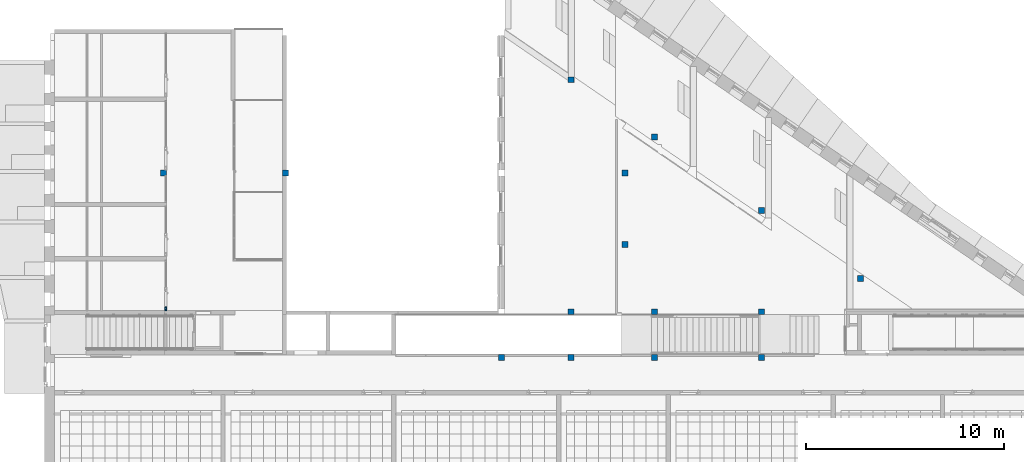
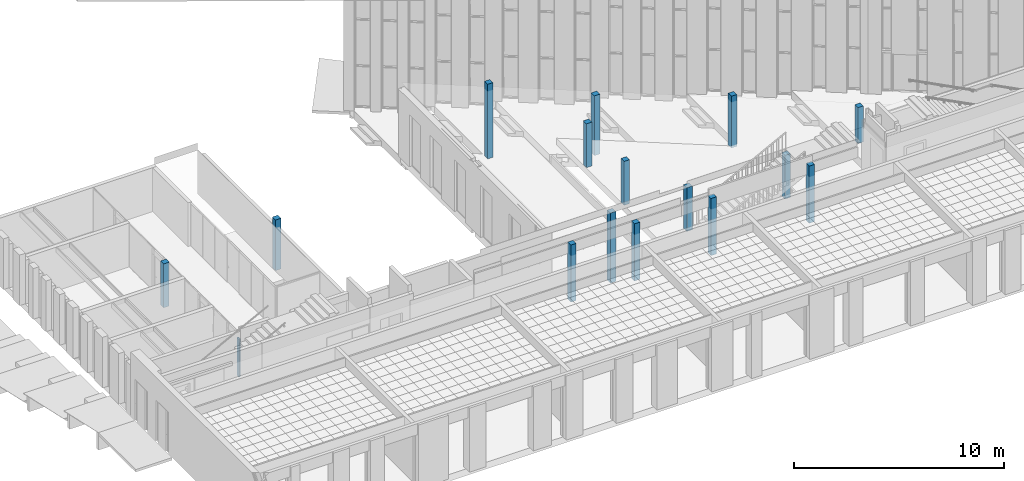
# One storey, part 1 of 79: 15 columns, 1 member, 1 element without a shape of its own.
"""IFC2X3 building model written with IfcOpenShell, lengths in millimetres."""

from ifc_helpers import new_model, entity, si_unit, converted_unit, derived_unit, money_unit, direction, frame, origin_with_axes, place, context, subcontext, project, spatial, faceted_brep, source, transform, mapped, material, material_list, type_object, element, aggregate, save


model = new_model("IFC2X3")

# Units and contexts
model_context = context("Model", 3, precision=0.01, world=origin_with_axes(), true_north=direction((0.0, 1.0)))
body_context = subcontext(model_context, "Body", "Model", "MODEL_VIEW")
ifc_project = project(units=[si_unit("LENGTHUNIT", "METRE", prefix="MILLI"), si_unit("AREAUNIT", "SQUARE_METRE"), si_unit("VOLUMEUNIT", "CUBIC_METRE"), converted_unit("PLANEANGLEUNIT", "DEGREE", entity("IfcPlaneAngleMeasure", 0.0174532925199), si_unit("PLANEANGLEUNIT", "RADIAN"), dimensions=[0, 0, 0, 0, 0, 0, 0]), si_unit("SOLIDANGLEUNIT", "STERADIAN"), money_unit("EUR"), converted_unit("TIMEUNIT", "Year", entity("IfcTimeMeasure", 31556926.0), si_unit("TIMEUNIT", "SECOND"), dimensions=[0, 0, 1, 0, 0, 0, 0]), si_unit("MASSUNIT", "GRAM", prefix="KILO"), si_unit("THERMODYNAMICTEMPERATUREUNIT", "DEGREE_CELSIUS"), si_unit("LUMINOUSINTENSITYUNIT", "LUMEN"), si_unit("ENERGYUNIT", "JOULE", prefix="MEGA"), derived_unit("THERMALCONDUCTANCEUNIT", [(si_unit("POWERUNIT", "WATT"), 1), (si_unit("LENGTHUNIT", "METRE"), -1), (si_unit("THERMODYNAMICTEMPERATUREUNIT", "KELVIN"), -1)]), derived_unit("SPECIFICHEATCAPACITYUNIT", [(si_unit("ENERGYUNIT", "JOULE"), 1), (si_unit("MASSUNIT", "GRAM", prefix="KILO"), -1), (si_unit("THERMODYNAMICTEMPERATUREUNIT", "KELVIN"), -1)]), derived_unit("MASSDENSITYUNIT", [(si_unit("MASSUNIT", "GRAM", prefix="KILO"), 1), (si_unit("VOLUMEUNIT", "CUBIC_METRE"), -1)])], contexts=[model_context])

# Site, building, storey
site_placement = place(None, origin_with_axes())
site = spatial("IfcSite", under=ifc_project, at=site_placement, Name="L.Koidula tn 11b", CompositionType="ELEMENT")
building_placement = place(site_placement, origin_with_axes())
building = spatial("IfcBuilding", under=site, at=building_placement, Name="Rakvere Riigigümnaasium", CompositionType="ELEMENT")
storey_placement = place(building_placement, frame((0.0, 0.0, 3720.0), z_axis=(0.0, 0.0, 1.0), x_axis=(1.0, 0.0, 0.0)))
storey = spatial("IfcBuildingStorey", under=building, at=storey_placement, Name="2.korrus +3,72", CompositionType="ELEMENT", Elevation=3720.0)

# Columns
ifc_material_1 = material(Name="Betoon post")
column_type = type_object("IfcColumnType", Name="Betoon post 300 x 300", PredefinedType="COLUMN")
for number, where, z_axis, x_axis, name in (
    (1, (71149.9980729, 14950.4785302, 0.0), (0.0, 0.0, 1.0), (1.0, 0.0, 0.0), "Post"),
    (2, (61540.0000003, 14950.4555218, 0.0), (0.0, 0.0, 1.0), (1.0, 0.0, 0.0), "Post"),
    (3, (65749.9980729, 14950.4785302, 0.0), (0.0, 0.0, 1.0), (1.0, 0.0, 0.0), "Post"),
    (4, (58030.0348101, 14950.4785254, 0.0), (0.0, 0.0, 1.0), (1.0, 0.0, 0.0), "Post"),
):
    element("IfcColumn", number, at=place(storey_placement, frame(where, z_axis=z_axis, x_axis=x_axis)), inside=storey, type_object=column_type, material=ifc_material_1, Name=name, ObjectType="COLUMN", context=body_context, shape_type="Brep", body=[
        faceted_brep([(-150.0, -150.0, 3325.0), (-150.0, -150.0, 0.0), (150.0, -150.0, 0.0), (150.0, -150.0, 3325.0), (-150.0, 150.0, 3325.0), (-150.0, 150.0, 0.0), (150.0, 150.0, 0.0), (150.0, 150.0, 3325.0)], [[[0, 1, 2, 3]], [[4, 5, 1, 0]], [[2, 1, 5, 6]], [[3, 2, 6, 7]], [[4, 0, 3, 7]], [[7, 6, 5, 4]]]),
    ])
column_1_placement = place(storey_placement, frame((71149.9980729, 17260.4555225, 0.0), z_axis=(0.0, 0.0, 1.0), x_axis=(1.0, 0.0, 0.0)))
element("IfcColumn", 5, at=column_1_placement, inside=storey, type_object=column_type, material=ifc_material_1, Name="Post", ObjectType="COLUMN", context=body_context, shape_type="Brep", body=[
    faceted_brep([(-150.0, -150.0, 2550.0), (-150.0, -150.0, 0.0), (150.0, -150.0, 0.0), (150.0, -150.0, 2550.0), (-150.0, 150.0, 2550.0), (-150.0, 150.0, 0.0), (150.0, 150.0, 0.0), (150.0, 150.0, 2550.0)], [[[0, 1, 2, 3]], [[4, 5, 1, 0]], [[2, 1, 5, 6]], [[3, 2, 6, 7]], [[4, 0, 3, 7]], [[7, 6, 5, 4]]]),
])
column_2_placement = place(storey_placement, frame((61540.020931, 17260.4325141, -1525.0), z_axis=(0.0, 0.0, 1.0), x_axis=(1.0, 0.0, 0.0)))
element("IfcColumn", 6, at=column_2_placement, inside=storey, type_object=column_type, material=ifc_material_1, Name="Post", ObjectType="COLUMN", context=body_context, shape_type="Brep", body=[
    faceted_brep([(-150.0, -150.0, 4075.0), (-150.0, -150.0, 0.0), (150.0, -150.0, 0.0), (150.0, -150.0, 4075.0), (-150.0, 150.0, 4075.0), (-150.0, 150.0, 0.0), (150.0, 150.0, 0.0), (150.0, 150.0, 4075.0)], [[[0, 1, 2, 3]], [[4, 5, 1, 0]], [[2, 1, 5, 6]], [[3, 2, 6, 7]], [[4, 0, 3, 7]], [[7, 6, 5, 4]]]),
])
column_3_placement = place(storey_placement, frame((65749.9980025, 17260.4555225, 0.0), z_axis=(0.0, 0.0, 1.0), x_axis=(1.0, 0.0, 0.0)))
element("IfcColumn", 7, at=column_3_placement, inside=storey, type_object=column_type, material=ifc_material_1, Name="Post", ObjectType="COLUMN", context=body_context, shape_type="Brep", body=[
    faceted_brep([(-150.0, -150.0, 2550.0), (-150.0, -150.0, 0.0), (150.0, -150.0, 0.0), (150.0, -150.0, 2550.0), (-150.0, 150.0, 2550.0), (-150.0, 150.0, 0.0), (150.0, 150.0, 0.0), (150.0, 150.0, 2550.0)], [[[0, 1, 2, 3]], [[4, 5, 1, 0]], [[2, 1, 5, 6]], [[3, 2, 6, 7]], [[4, 0, 3, 7]], [[7, 6, 5, 4]]]),
])
column_4_placement = place(storey_placement, frame((76139.9798877, 18946.2350956, 465.0), z_axis=(0.0, 0.0, 1.0), x_axis=(1.0, 0.0, 0.0)))
element("IfcColumn", 8, at=column_4_placement, inside=storey, type_object=column_type, material=ifc_material_1, Name="Post", ObjectType="COLUMN", context=body_context, shape_type="Brep", body=[
    faceted_brep([(-150.0, -150.0, 2085.0), (-150.0, -150.0, 0.0), (150.0, -150.0, 0.0), (150.0, -150.0, 2085.0), (-150.0, 150.0, 2085.0), (-150.0, 150.0, 0.0), (150.0, 150.0, 0.0), (150.0, 150.0, 2085.0)], [[[0, 1, 2, 3]], [[4, 5, 1, 0]], [[2, 1, 5, 6]], [[3, 2, 6, 7]], [[4, 0, 3, 7]], [[7, 6, 5, 4]]]),
])
column_5_placement = place(storey_placement, frame((71149.9980729, 22368.7533367, -130.0), z_axis=(0.0, 0.0, 1.0), x_axis=(1.0, 0.0, 0.0)))
element("IfcColumn", 9, at=column_5_placement, inside=storey, type_object=column_type, material=ifc_material_1, Name="Post", ObjectType="COLUMN", context=body_context, shape_type="Brep", body=[
    faceted_brep([(-150.0, -150.0, 3015.0), (-150.0, -150.0, 0.0), (150.0, -150.0, 0.0), (150.0, -150.0, 3015.0), (-150.0, 150.0, 3015.0), (-150.0, 150.0, 0.0), (150.0, 150.0, 0.0), (150.0, 150.0, 3015.0)], [[[0, 1, 2, 3]], [[4, 5, 1, 0]], [[2, 1, 5, 6]], [[3, 2, 6, 7]], [[4, 0, 3, 7]], [[7, 6, 5, 4]]]),
])
for number, where, z_axis, x_axis, name in (
    (10, (64260.020931, 20650.4631607, 0.0), (0.0, 0.0, 1.0), (1.0, 0.0, 0.0), "Post"),
    (11, (64260.020931, 24250.4555472, 0.0), (0.0, 0.0, 1.0), (1.0, 0.0, 0.0), "Post"),
):
    element("IfcColumn", number, at=place(storey_placement, frame(where, z_axis=z_axis, x_axis=x_axis)), inside=storey, type_object=column_type, material=ifc_material_1, Name=name, ObjectType="COLUMN", context=body_context, shape_type="Brep", body=[
        faceted_brep([(-150.0, -150.0, 2550.0), (-150.0, -150.0, 0.0), (150.0, -150.0, 0.0), (150.0, -150.0, 2550.0), (-150.0, 150.0, 2550.0), (-150.0, 150.0, 0.0), (150.0, 150.0, 0.0), (150.0, 150.0, 2550.0)], [[[0, 1, 2, 3]], [[4, 5, 1, 0]], [[2, 1, 5, 6]], [[3, 2, 6, 7]], [[4, 0, 3, 7]], [[7, 6, 5, 4]]]),
    ])
column_6_placement = place(storey_placement, frame((65749.9980729, 26072.2711802, -930.0), z_axis=(0.0, 0.0, 1.0), x_axis=(1.0, 0.0, 0.0)))
element("IfcColumn", 12, at=column_6_placement, inside=storey, type_object=column_type, material=ifc_material_1, Name="Post", ObjectType="COLUMN", context=body_context, shape_type="Brep", body=[
    faceted_brep([(-150.0, -150.0, 3480.0), (-150.0, -150.0, 0.0), (150.0, -150.0, 0.0), (150.0, -150.0, 3480.0), (-150.0, 150.0, 3480.0), (-150.0, 150.0, 0.0), (150.0, 150.0, 0.0), (150.0, 150.0, 3480.0)], [[[0, 1, 2, 3]], [[4, 5, 1, 0]], [[2, 1, 5, 6]], [[3, 2, 6, 7]], [[4, 0, 3, 7]], [[7, 6, 5, 4]]]),
])
column_7_placement = place(storey_placement, frame((61540.020931, 28960.0508919, -1394.9999959), z_axis=(0.0, 0.0, 1.0), x_axis=(1.0, 0.0, 0.0)))
element("IfcColumn", 13, at=column_7_placement, inside=storey, type_object=column_type, material=ifc_material_1, Name="Post", ObjectType="COLUMN", context=body_context, shape_type="Brep", body=[
    faceted_brep([(-150.0, -150.0, 4339.9999959), (-150.0, -150.0, 0.0), (150.0, -150.0, 0.0), (150.0, -150.0, 4339.9999959), (-150.0, 150.0, 4339.9999959), (-150.0, 150.0, 0.0), (150.0, 150.0, 0.0), (150.0, 150.0, 4339.9999959)], [[[0, 1, 2, 3]], [[4, 5, 1, 0]], [[2, 1, 5, 6]], [[3, 2, 6, 7]], [[4, 0, 3, 7]], [[7, 6, 5, 4]]]),
])
column_8_placement = place(storey_placement, frame((47150.0013931, 24250.4555472, 0.0), z_axis=(0.0, 0.0, 1.0), x_axis=(1.0, 0.0, 0.0)))
element("IfcColumn", 14, at=column_8_placement, inside=storey, type_object=column_type, material=ifc_material_1, Name="Post", ObjectType="COLUMN", context=body_context, shape_type="Brep", body=[
    faceted_brep([(-150.0, -150.0, 2945.0), (-150.0, -150.0, 0.0), (150.0, -150.0, 0.0), (150.0, -150.0, 2945.0), (-150.0, 150.0, 2945.0), (-150.0, 150.0, 0.0), (150.0, 150.0, 0.0), (150.0, 150.0, 2945.0)], [[[0, 1, 2, 3]], [[4, 5, 1, 0]], [[2, 1, 5, 6]], [[3, 2, 6, 7]], [[4, 0, 3, 7]], [[7, 6, 5, 4]]]),
])
column_9_placement = place(storey_placement, frame((41000.0009821, 24250.4555472, 0.0), z_axis=(0.0, 0.0, 1.0), x_axis=(1.0, 0.0, 0.0)))
element("IfcColumn", 15, at=column_9_placement, inside=storey, type_object=column_type, material=ifc_material_1, Name="Post", ObjectType="COLUMN", context=body_context, shape_type="Brep", body=[
    faceted_brep([(-150.0, -150.0, 2550.0), (-150.0, -150.0, 0.0), (150.0, -150.0, 0.0), (150.0, -150.0, 2550.0), (-150.0, 150.0, 2550.0), (-150.0, 150.0, 0.0), (150.0, 150.0, 0.0), (150.0, 150.0, 2550.0)], [[[0, 1, 2, 3]], [[4, 5, 1, 0]], [[2, 1, 5, 6]], [[3, 2, 6, 7]], [[4, 0, 3, 7]], [[7, 6, 5, 4]]]),
])

# Curtain wall, member
curtain_wall_type = type_object("IfcCurtainWallType", Name="Curtain Wall Type", PredefinedType="NOTDEFINED")
curtain_wall_placement = place(storey_placement, frame((41130.915445, 17840.4555248, 2.4134225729e-05), z_axis=(0.0, 0.0, 1.0), x_axis=(1.0, 0.0, 0.0)))
curtain_wall = element("IfcCurtainWall", 16, at=curtain_wall_placement, inside=storey, type_object=curtain_wall_type, Name="SKLF-12")
ifc_material_2 = material(Name="Puit")
ifc_material_3 = material(Name="Klaasvill")
ifc_material_4 = material(Name="MDF")
ifc_material_5 = material(Name="Alumiiniumprofiil")
ifc_material_6 = material(Name="Teras")
ifc_material_list = material_list([ifc_material_2, ifc_material_3, ifc_material_4, ifc_material_5, ifc_material_6])
member_type = type_object("IfcMemberType", Name="Siseklaasfassaad - Ukseraam hing- klaasita-2 195 x 29", PredefinedType="MULLION")
shared_shape = source(origin_with_axes(), body_context, "Body", "Brep", [
    faceted_brep([(139.859682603, -15.116905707, 0.0), (181.717061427, -15.116905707, 0.0), (181.717061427, -15.116905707, 2200.0), (139.859682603, -15.116905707, 2200.0), (139.859682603, 50.9999990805, 0.0), (169.859682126, 50.9999990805, 0.0), (169.859683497, 23.9999989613, 0.0), (178.395629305, 23.9999989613, 0.0), (178.395629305, -8.00000062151, 0.0), (181.855103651, -8.00000062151, 0.0), (181.855103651, -15.116905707, 0.0), (181.855103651, -15.116905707, 2200.0), (181.855103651, -8.00000062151, 2200.0), (178.395629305, -8.00000062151, 2200.0), (178.395629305, 23.9999989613, 2200.0), (169.859683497, 23.9999989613, 2200.0), (169.859682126, 50.9999990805, 2200.0), (139.859682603, 50.9999990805, 2200.0)], [[[0, 1, 2, 3]], [[0, 4, 5, 6, 7, 8, 9, 10, 1]], [[1, 10, 11, 2]], [[3, 2, 11, 12, 13, 14, 15, 16, 17]], [[4, 0, 3, 17]], [[5, 4, 17, 16]], [[6, 5, 16, 15]], [[7, 6, 15, 14]], [[8, 7, 14, 13]], [[9, 8, 13, 12]], [[10, 9, 12, 11]]]),
    faceted_brep([(31.9999999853, 20.4981590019, 0.0), (31.9999999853, 17.3999984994, 0.0), (31.9999999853, 17.3999984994, 2200.0), (31.9999999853, 20.4981590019, 2200.0), (109.856776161, 20.498157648, 0.0), (109.856777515, 5.39999855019, 0.0), (109.856777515, -15.0000008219, 0.0), (109.856777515, -16.9999999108, 0.0), (50.0000012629, -17.0000026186, 0.0), (31.9999999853, -16.9999999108, 0.0), (31.9999999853, -10.9998686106, 0.0), (31.9999999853, -4.99999996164, 0.0), (31.9999999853, -4.99999996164, 2200.0), (31.9999999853, -10.9998686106, 2200.0), (31.9999999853, -16.9999999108, 2200.0), (50.0000012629, -17.0000026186, 2200.0), (109.856777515, -16.9999999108, 2200.0), (109.856777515, -15.0000008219, 2200.0), (109.856777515, 5.39999855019, 2200.0), (109.856776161, 20.498157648, 2200.0)], [[[0, 1, 2, 3]], [[0, 4, 5, 6, 7, 8, 9, 10, 11, 1]], [[1, 11, 12, 2]], [[3, 2, 12, 13, 14, 15, 16, 17, 18, 19]], [[4, 0, 3, 19]], [[5, 4, 19, 18]], [[6, 5, 18, 17]], [[7, 6, 17, 16]], [[8, 7, 16, 15]], [[9, 8, 15, 14]], [[10, 9, 14, 13]], [[11, 10, 13, 12]]]),
    faceted_brep([(2.00000016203, -18.9999768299, 0.0), (2.00000016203, -28.9999775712, 0.0), (2.00000016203, -28.9999775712, 2200.0), (2.00000016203, -18.9999768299, 2200.0), (29.9999993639, -18.9999998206, 0.0), (31.9999995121, -18.9999998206, 0.0), (50.0000008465, -18.9999998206, 0.0), (109.856776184, -18.9999797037, 0.0), (192.859682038, -18.9999768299, 0.0), (192.859682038, -28.9999775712, 0.0), (192.859682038, -28.9999775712, 2200.0), (192.859682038, -18.9999768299, 2200.0), (109.856776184, -18.9999797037, 2200.0), (50.0000008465, -18.9999998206, 2200.0), (31.9999995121, -18.9999998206, 2200.0), (29.9999993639, -18.9999998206, 2200.0)], [[[0, 1, 2, 3]], [[0, 4, 5, 6, 7, 8, 9, 1]], [[1, 9, 10, 2]], [[3, 2, 10, 11, 12, 13, 14, 15]], [[4, 0, 3, 15]], [[5, 4, 15, 14]], [[6, 5, 14, 13]], [[7, 6, 13, 12]], [[8, 7, 12, 11]], [[9, 8, 11, 10]]]),
    faceted_brep([(167.859682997, 63.0000007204, 0.0), (1.99999972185, 62.9999978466, 0.0), (1.99999972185, 62.9999978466, 2200.0), (167.859682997, 63.0000007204, 2200.0), (167.859682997, 52.9999999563, 0.0), (139.859683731, 52.9999999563, 0.0), (109.85677599, 52.9999999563, 0.0), (29.9999989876, 52.9999970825, 0.0), (18.6712801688, 52.9999970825, 0.0), (1.99999972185, 52.9999999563, 0.0), (1.99999972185, 52.9999999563, 2200.0), (18.6712801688, 52.9999970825, 2200.0), (29.9999989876, 52.9999970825, 2200.0), (109.85677599, 52.9999999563, 2200.0), (139.859683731, 52.9999999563, 2200.0), (167.859682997, 52.9999999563, 2200.0)], [[[0, 1, 2, 3]], [[0, 4, 5, 6, 7, 8, 9, 1]], [[1, 9, 10, 2]], [[3, 2, 10, 11, 12, 13, 14, 15]], [[4, 0, 3, 15]], [[5, 4, 15, 14]], [[6, 5, 14, 13]], [[7, 6, 13, 12]], [[8, 7, 12, 11]], [[9, 8, 11, 10]]]),
    faceted_brep([(18.9999998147, 33.492630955, 0.0), (18.9999998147, 20.5001075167, 0.0), (18.9999998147, 20.5001075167, 2200.0), (18.9999998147, 33.492630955, 2200.0), (109.856776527, 33.4906812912, 0.0), (109.856776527, 20.4981578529, 0.0), (31.9999999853, 20.4981590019, 0.0), (31.9999999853, 20.4981590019, 2200.0), (109.856776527, 20.4981578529, 2200.0), (109.856776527, 33.4906812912, 2200.0)], [[[0, 1, 2, 3]], [[0, 4, 5, 6, 1]], [[1, 6, 7, 2]], [[3, 2, 7, 8, 9]], [[4, 0, 3, 9]], [[5, 4, 9, 8]], [[6, 5, 8, 7]]]),
    faceted_brep([(109.854989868, 49.9999988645, 0.0), (19.0000000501, 50.0001085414, 0.0), (19.0000000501, 50.0001085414, 2200.0), (109.854989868, 49.9999988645, 2200.0), (109.854989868, 36.9999990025, 0.0), (19.0000000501, 37.0001070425, 0.0), (19.0000000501, 37.0001070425, 2200.0), (109.854989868, 36.9999990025, 2200.0)], [[[0, 1, 2, 3]], [[0, 4, 5, 1]], [[1, 5, 6, 2]], [[3, 2, 6, 7]], [[4, 0, 3, 7]], [[5, 4, 7, 6]]]),
    faceted_brep([(109.856776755, 52.9999991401, 0.0), (109.854989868, 49.9999988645, 0.0), (109.854989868, 49.9999988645, 2200.0), (109.856776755, 52.9999991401, 2200.0), (139.859682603, 52.9999991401, 0.0), (167.859682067, 52.9999991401, 0.0), (167.859682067, 62.9999994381, 0.0), (169.859682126, 62.9999994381, 0.0), (169.859682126, 54.9999991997, 0.0), (169.859682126, 50.9999990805, 0.0), (139.859682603, 50.9999990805, 0.0), (139.859682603, -15.116905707, 0.0), (181.717061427, -15.116905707, 0.0), (181.717061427, -17.0000002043, 0.0), (194.859682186, -17.0000002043, 0.0), (194.859682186, -20.0740464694, 0.0), (194.859682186, -29.0000005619, 0.0), (192.859683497, -29.0000005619, 0.0), (192.859683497, -18.9999783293, 0.0), (109.856776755, -18.9999783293, 0.0), (109.856777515, -16.9999999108, 0.0), (109.856776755, -15.0000001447, 0.0), (126.859682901, -15.0000001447, 0.0), (126.859682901, 5.39999991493, 0.0), (109.856776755, 5.39999991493, 0.0), (109.856776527, 20.4981578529, 0.0), (109.856776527, 33.4906812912, 0.0), (109.854989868, 36.9999990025, 0.0), (109.854989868, 36.9999990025, 2200.0), (109.856776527, 33.4906812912, 2200.0), (109.856776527, 20.4981578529, 2200.0), (109.856776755, 5.39999991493, 2200.0), (126.859682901, 5.39999991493, 2200.0), (126.859682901, -15.0000001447, 2200.0), (109.856776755, -15.0000001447, 2200.0), (109.856777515, -16.9999999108, 2200.0), (109.856776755, -18.9999783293, 2200.0), (192.859683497, -18.9999783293, 2200.0), (192.859683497, -29.0000005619, 2200.0), (194.859682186, -29.0000005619, 2200.0), (194.859682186, -20.0740464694, 2200.0), (194.859682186, -17.0000002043, 2200.0), (181.717061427, -17.0000002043, 2200.0), (181.717061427, -15.116905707, 2200.0), (139.859682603, -15.116905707, 2200.0), (139.859682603, 50.9999990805, 2200.0), (169.859682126, 50.9999990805, 2200.0), (169.859682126, 54.9999991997, 2200.0), (169.859682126, 62.9999994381, 2200.0), (167.859682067, 62.9999994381, 2200.0), (167.859682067, 52.9999991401, 2200.0), (139.859682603, 52.9999991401, 2200.0)], [[[0, 1, 2, 3]], [[0, 4, 5, 6, 7, 8, 9, 10, 11, 12, 13, 14, 15, 16, 17, 18, 19, 20, 21, 22, 23, 24, 25, 26, 27, 1]], [[1, 27, 28, 2]], [[3, 2, 28, 29, 30, 31, 32, 33, 34, 35, 36, 37, 38, 39, 40, 41, 42, 43, 44, 45, 46, 47, 48, 49, 50, 51]], [[4, 0, 3, 51]], [[5, 4, 51, 50]], [[6, 5, 50, 49]], [[7, 6, 49, 48]], [[8, 7, 48, 47]], [[9, 8, 47, 46]], [[10, 9, 46, 45]], [[11, 10, 45, 44]], [[12, 11, 44, 43]], [[13, 12, 43, 42]], [[14, 13, 42, 41]], [[15, 14, 41, 40]], [[16, 15, 40, 39]], [[17, 16, 39, 38]], [[18, 17, 38, 37]], [[19, 18, 37, 36]], [[20, 19, 36, 35]], [[21, 20, 35, 34]], [[22, 21, 34, 33]], [[23, 22, 33, 32]], [[24, 23, 32, 31]], [[25, 24, 31, 30]], [[26, 25, 30, 29]], [[27, 26, 29, 28]]]),
    faceted_brep([(0.0, 62.9999994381, 0.0), (0.0, 15.3999992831, 0.0), (0.0, 15.3999992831, 2200.0), (0.0, 62.9999994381, 2200.0), (1.99999958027, 62.9999994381, 0.0), (2.00000095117, 52.999998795, 0.0), (18.6712817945, 52.999998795, 0.0), (29.9999991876, 52.999998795, 0.0), (29.9999991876, 50.0001084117, 0.0), (19.0000008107, 50.0001084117, 0.0), (19.0000000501, 37.0001070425, 0.0), (18.9999998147, 33.492630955, 0.0), (18.9999998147, 20.5001075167, 0.0), (19.0000008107, 17.3999988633, 0.0), (32.0000001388, 17.3999988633, 0.0), (32.0000001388, -5.0, 0.0), (32.0000001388, -10.9998685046, 0.0), (32.0000001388, -17.0000015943, 0.0), (50.0000004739, -17.0000015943, 0.0), (50.0000004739, -18.9999998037, 0.0), (32.0000001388, -18.9999998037, 0.0), (30.0000005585, -18.9999998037, 0.0), (30.0000005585, -17.0000015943, 0.0), (30.0000005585, -10.9998685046, 0.0), (2.00000095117, -10.9998685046, 0.0), (2.00000016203, -18.9999768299, 0.0), (2.00000095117, -28.9999785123, 0.0), (0.0, -28.9999785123, 0.0), (0.0, -5.0, 0.0), (2.00000095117, -5.0, 0.0), (16.9999998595, -5.0, 0.0), (16.9999998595, 15.3999992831, 0.0), (16.9999998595, 15.3999992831, 2200.0), (16.9999998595, -5.0, 2200.0), (2.00000095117, -5.0, 2200.0), (0.0, -5.0, 2200.0), (0.0, -28.9999785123, 2200.0), (2.00000095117, -28.9999785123, 2200.0), (2.00000016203, -18.9999768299, 2200.0), (2.00000095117, -10.9998685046, 2200.0), (30.0000005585, -10.9998685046, 2200.0), (30.0000005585, -17.0000015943, 2200.0), (30.0000005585, -18.9999998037, 2200.0), (32.0000001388, -18.9999998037, 2200.0), (50.0000004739, -18.9999998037, 2200.0), (50.0000004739, -17.0000015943, 2200.0), (32.0000001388, -17.0000015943, 2200.0), (32.0000001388, -10.9998685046, 2200.0), (32.0000001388, -5.0, 2200.0), (32.0000001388, 17.3999988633, 2200.0), (19.0000008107, 17.3999988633, 2200.0), (18.9999998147, 20.5001075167, 2200.0), (18.9999998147, 33.492630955, 2200.0), (19.0000000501, 37.0001070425, 2200.0), (19.0000008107, 50.0001084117, 2200.0), (29.9999991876, 50.0001084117, 2200.0), (29.9999991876, 52.999998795, 2200.0), (18.6712817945, 52.999998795, 2200.0), (2.00000095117, 52.999998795, 2200.0), (1.99999958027, 62.9999994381, 2200.0)], [[[0, 1, 2, 3]], [[0, 4, 5, 6, 7, 8, 9, 10, 11, 12, 13, 14, 15, 16, 17, 18, 19, 20, 21, 22, 23, 24, 25, 26, 27, 28, 29, 30, 31, 1]], [[1, 31, 32, 2]], [[3, 2, 32, 33, 34, 35, 36, 37, 38, 39, 40, 41, 42, 43, 44, 45, 46, 47, 48, 49, 50, 51, 52, 53, 54, 55, 56, 57, 58, 59]], [[4, 0, 3, 59]], [[5, 4, 59, 58]], [[6, 5, 58, 57]], [[7, 6, 57, 56]], [[8, 7, 56, 55]], [[9, 8, 55, 54]], [[10, 9, 54, 53]], [[11, 10, 53, 52]], [[12, 11, 52, 51]], [[13, 12, 51, 50]], [[14, 13, 50, 49]], [[15, 14, 49, 48]], [[16, 15, 48, 47]], [[17, 16, 47, 46]], [[18, 17, 46, 45]], [[19, 18, 45, 44]], [[20, 19, 44, 43]], [[21, 20, 43, 42]], [[22, 21, 42, 41]], [[23, 22, 41, 40]], [[24, 23, 40, 39]], [[25, 24, 39, 38]], [[26, 25, 38, 37]], [[27, 26, 37, 36]], [[28, 27, 36, 35]], [[29, 28, 35, 34]], [[30, 29, 34, 33]], [[31, 30, 33, 32]]]),
    faceted_brep([(191.287294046, 42.0314837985, 0.0), (189.304437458, 46.4929115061, 0.0), (189.304437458, 46.4929115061, 2200.0), (191.287294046, 42.0314837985, 2200.0), (191.287294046, 39.5529134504, 0.0), (190.543723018, 37.0712444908, 0.0), (188.808723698, 35.0883879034, 0.0), (186.82586711, 33.6012450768, 0.0), (184.34729599, 32.8576740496, 0.0), (181.86562703, 33.1055313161, 0.0), (181.658588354, 33.5817206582, 0.0), (181.86562703, 32.1141030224, 0.0), (181.855103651, -8.00000062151, 0.0), (178.395628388, -8.00000056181, 0.0), (178.395629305, 23.9999989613, 0.0), (178.395628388, 31.1195761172, 0.0), (178.147771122, 33.1055313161, 0.0), (177.404200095, 34.840530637, 0.0), (176.164914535, 37.3221995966, 0.0), (175.421343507, 39.7976721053, 0.0), (175.421343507, 42.279341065, 0.0), (176.164914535, 44.7579114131, 0.0), (177.652057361, 46.7407680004, 0.0), (179.882770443, 48.227910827, 0.0), (182.364439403, 48.9714818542, 0.0), (184.843010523, 48.9714818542, 0.0), (187.073723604, 47.9800535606, 0.0), (187.073723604, 47.9800535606, 2200.0), (184.843010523, 48.9714818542, 2200.0), (182.364439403, 48.9714818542, 2200.0), (179.882770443, 48.227910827, 2200.0), (177.652057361, 46.7407680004, 2200.0), (176.164914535, 44.7579114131, 2200.0), (175.421343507, 42.279341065, 2200.0), (175.421343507, 39.7976721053, 2200.0), (176.164914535, 37.3221995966, 2200.0), (177.404200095, 34.840530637, 2200.0), (178.147771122, 33.1055313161, 2200.0), (178.395628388, 31.1195761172, 2200.0), (178.395629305, 23.9999989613, 2200.0), (178.395628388, -8.00000056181, 2200.0), (181.855103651, -8.00000062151, 2200.0), (181.86562703, 32.1141030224, 2200.0), (181.658588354, 33.5817206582, 2200.0), (181.86562703, 33.1055313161, 2200.0), (184.34729599, 32.8576740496, 2200.0), (186.82586711, 33.6012450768, 2200.0), (188.808723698, 35.0883879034, 2200.0), (190.543723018, 37.0712444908, 2200.0), (191.287294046, 39.5529134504, 2200.0)], [[[0, 1, 2, 3]], [[0, 4, 5, 6, 7, 8, 9, 10, 11, 12, 13, 14, 15, 16, 17, 18, 19, 20, 21, 22, 23, 24, 25, 26, 1]], [[1, 26, 27, 2]], [[3, 2, 27, 28, 29, 30, 31, 32, 33, 34, 35, 36, 37, 38, 39, 40, 41, 42, 43, 44, 45, 46, 47, 48, 49]], [[4, 0, 3, 49]], [[5, 4, 49, 48]], [[6, 5, 48, 47]], [[7, 6, 47, 46]], [[8, 7, 46, 45]], [[9, 8, 45, 44]], [[10, 9, 44, 43]], [[11, 10, 43, 42]], [[12, 11, 42, 41]], [[13, 12, 41, 40]], [[14, 13, 40, 39]], [[15, 14, 39, 38]], [[16, 15, 38, 37]], [[17, 16, 37, 36]], [[18, 17, 36, 35]], [[19, 18, 35, 34]], [[20, 19, 34, 33]], [[21, 20, 33, 32]], [[22, 21, 32, 31]], [[23, 22, 31, 30]], [[24, 23, 30, 29]], [[25, 24, 29, 28]], [[26, 25, 28, 27]]]),
])
member_placement = place(curtain_wall_placement, frame((-0.0219112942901, -519.999999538, -2.4134225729e-05), z_axis=(0.0, 0.0, 1.0), x_axis=(-4.21371043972e-05, -0.999999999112, 0.0)))
member = element("IfcMember", 17, at=member_placement, type_object=member_type, material=ifc_material_list, Name="Frame-Siseklaasf-001", ObjectType="MULLION", context=body_context, shape_type="MappedRepresentation", body=[
    mapped(shared_shape, transform((0.0, 0.0, 0.0), x_axis=(-1.0, 0.0, 0.0), y_axis=(0.0, -1.0, 0.0), z_axis=(0.0, 0.0, 1.0))),
])
aggregate(curtain_wall, [member])

save(model, "model.ifc")
